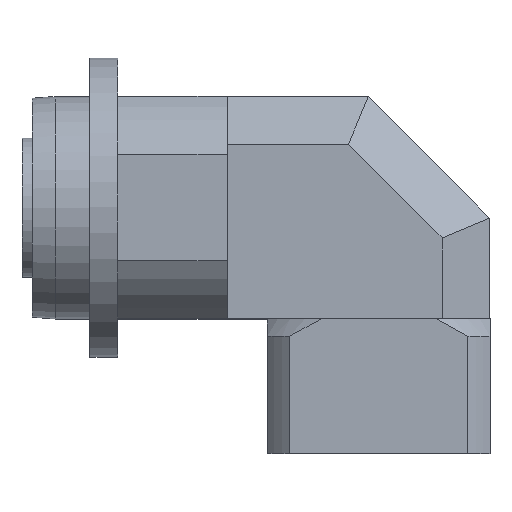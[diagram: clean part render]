
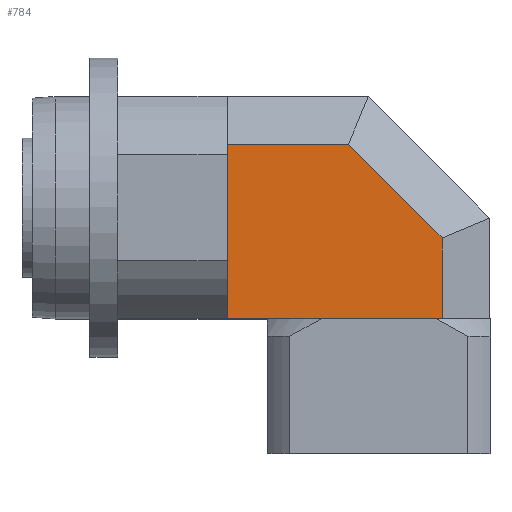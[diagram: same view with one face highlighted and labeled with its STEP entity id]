
A CAD part, top view. The second image highlights one B-rep face of the part: STEP entity #784.
In plain terms, the highlighted planar face has unit normal (0, 0, 1).
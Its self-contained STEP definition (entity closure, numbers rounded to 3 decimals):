
#72 = CARTESIAN_POINT ( 'NONE',  ( 61.8, 0., 64. ) ) ;
#124 = EDGE_CURVE ( 'NONE', #2354, #4931, #5034, .T. ) ;
#188 = DIRECTION ( 'NONE',  ( 1., 0., 0. ) ) ;
#208 = CARTESIAN_POINT ( 'NONE',  ( 0., 0., 64. ) ) ;
#265 = CARTESIAN_POINT ( 'NONE',  ( 61.8, 23.284, 64. ) ) ;
#280 = ORIENTED_EDGE ( 'NONE', *, *, #4471, .T. ) ;
#471 = FACE_OUTER_BOUND ( 'NONE', #4841, .T. ) ;
#784 = ADVANCED_FACE ( 'NONE', ( #471 ), #4616, .T. ) ;
#880 = AXIS2_PLACEMENT_3D ( 'NONE', #208, #1497, #2001 ) ;
#923 = VECTOR ( 'NONE', #1338, 1000. ) ;
#986 = CARTESIAN_POINT ( 'NONE',  ( 61.8, 23.284, 64. ) ) ;
#1129 = ORIENTED_EDGE ( 'NONE', *, *, #1686, .T. ) ;
#1153 = VERTEX_POINT ( 'NONE', #2401 ) ;
#1288 = VERTEX_POINT ( 'NONE', #3878 ) ;
#1338 = DIRECTION ( 'NONE',  ( 0., -1., 0. ) ) ;
#1376 = LINE ( 'NONE', #3708, #2307 ) ;
#1497 = DIRECTION ( 'NONE',  ( 0., 0., 1. ) ) ;
#1686 = EDGE_CURVE ( 'NONE', #1288, #3218, #4095, .T. ) ;
#1722 = CARTESIAN_POINT ( 'NONE',  ( 0., 50.2, 64. ) ) ;
#2001 = DIRECTION ( 'NONE',  ( 1., 0., 0. ) ) ;
#2164 = DIRECTION ( 'NONE',  ( 0., -1., 0. ) ) ;
#2273 = DIRECTION ( 'NONE',  ( -1., 0., 0. ) ) ;
#2307 = VECTOR ( 'NONE', #2164, 1000. ) ;
#2354 = VERTEX_POINT ( 'NONE', #265 ) ;
#2401 = CARTESIAN_POINT ( 'NONE',  ( 0., 0., 64. ) ) ;
#2574 = CARTESIAN_POINT ( 'NONE',  ( 0., 0., 64. ) ) ;
#2622 = ORIENTED_EDGE ( 'NONE', *, *, #2719, .T. ) ;
#2665 = VECTOR ( 'NONE', #188, 1000. ) ;
#2705 = VECTOR ( 'NONE', #3747, 1000. ) ;
#2719 = EDGE_CURVE ( 'NONE', #1153, #4931, #5191, .T. ) ;
#3040 = VECTOR ( 'NONE', #2273, 1000. ) ;
#3218 = VERTEX_POINT ( 'NONE', #1722 ) ;
#3367 = CARTESIAN_POINT ( 'NONE',  ( 0., 50.2, 64. ) ) ;
#3536 = EDGE_CURVE ( 'NONE', #2354, #1288, #4949, .T. ) ;
#3542 = ORIENTED_EDGE ( 'NONE', *, *, #124, .F. ) ;
#3708 = CARTESIAN_POINT ( 'NONE',  ( 0., 0., 64. ) ) ;
#3747 = DIRECTION ( 'NONE',  ( -0.707, 0.707, 0. ) ) ;
#3878 = CARTESIAN_POINT ( 'NONE',  ( 34.884, 50.2, 64. ) ) ;
#3942 = CARTESIAN_POINT ( 'NONE',  ( 61.8, 0., 64. ) ) ;
#4095 = LINE ( 'NONE', #3367, #3040 ) ;
#4471 = EDGE_CURVE ( 'NONE', #3218, #1153, #1376, .T. ) ;
#4616 = PLANE ( 'NONE',  #880 ) ;
#4841 = EDGE_LOOP ( 'NONE', ( #1129, #280, #2622, #3542, #5120 ) ) ;
#4931 = VERTEX_POINT ( 'NONE', #3942 ) ;
#4949 = LINE ( 'NONE', #986, #2705 ) ;
#5034 = LINE ( 'NONE', #72, #923 ) ;
#5120 = ORIENTED_EDGE ( 'NONE', *, *, #3536, .T. ) ;
#5191 = LINE ( 'NONE', #2574, #2665 ) ;
